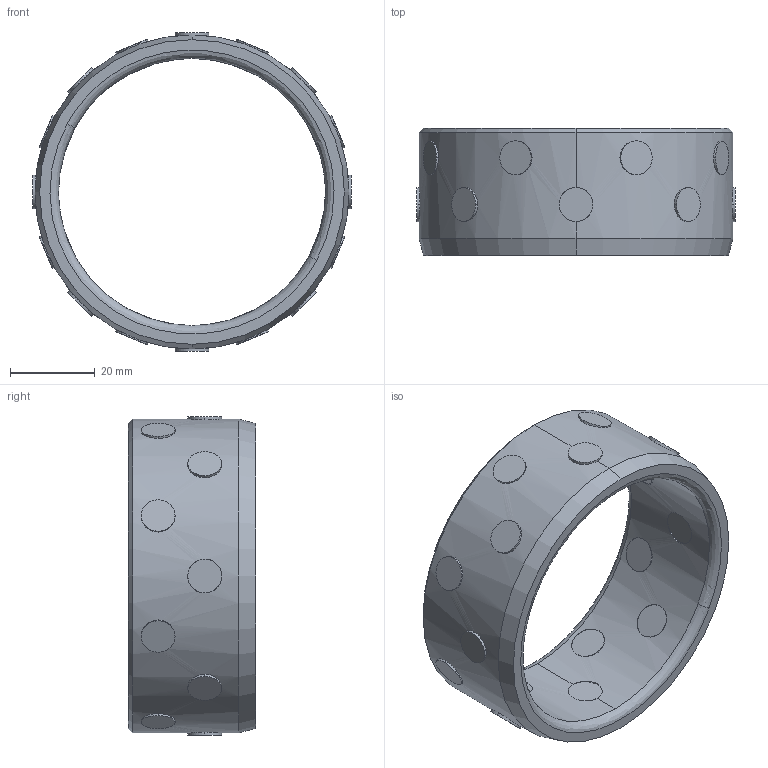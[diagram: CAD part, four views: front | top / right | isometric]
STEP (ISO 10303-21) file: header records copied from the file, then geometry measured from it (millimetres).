
FILE_DESCRIPTION (( 'STEP AP214' ), '1' );
FILE_NAME ('D30.04_633074.STEP', '2011-12-24T20:25:24', ( 'Dell' ), ( '' ), 'SwSTEP 2.0', 'SolidWorks 2010', '' );
FILE_SCHEMA (( 'AUTOMOTIVE_DESIGN' ));
Length unit declared in the file: millimetre
Products named in the file (5): Gathered Part15 on CircPattern.2_2_Varsayýlan; Part15_2_Varsayýlan; 1_2_Varsayýlan; D30.04_633074; Gathered Part15 on CircPattern.11_2_Varsayýlan
Assembly tree (20 placements, depth 3):
  D30.04_633074
    Gathered Part15 on CircPattern.2_2_Varsayýlan
      Part15_2_Varsayýlan  x7
    Part15_2_Varsayýlan  x2
    1_2_Varsayýlan
    Gathered Part15 on CircPattern.11_2_Varsayýlan
      Part15_2_Varsayýlan  x8
Bounding box: 75 x 30 x 75 mm (x, y, z)
Volume: 35235.8 mm3; surface area: 19456.3 mm2
Topology: 18 solids, 18 shells, 114 faces, 242 edges, 160 vertices
Faces by surface type: cylinder 70, plane 36, bspline 4, cone 4
Entity records: 4242 total; most frequent: CARTESIAN_POINT 2729, ORIENTED_EDGE 292, DIRECTION 236, EDGE_CURVE 146, VERTEX_POINT 96, AXIS2_PLACEMENT_3D 95, EDGE_LOOP 80, B_SPLINE_CURVE_WITH_KNOTS 74
